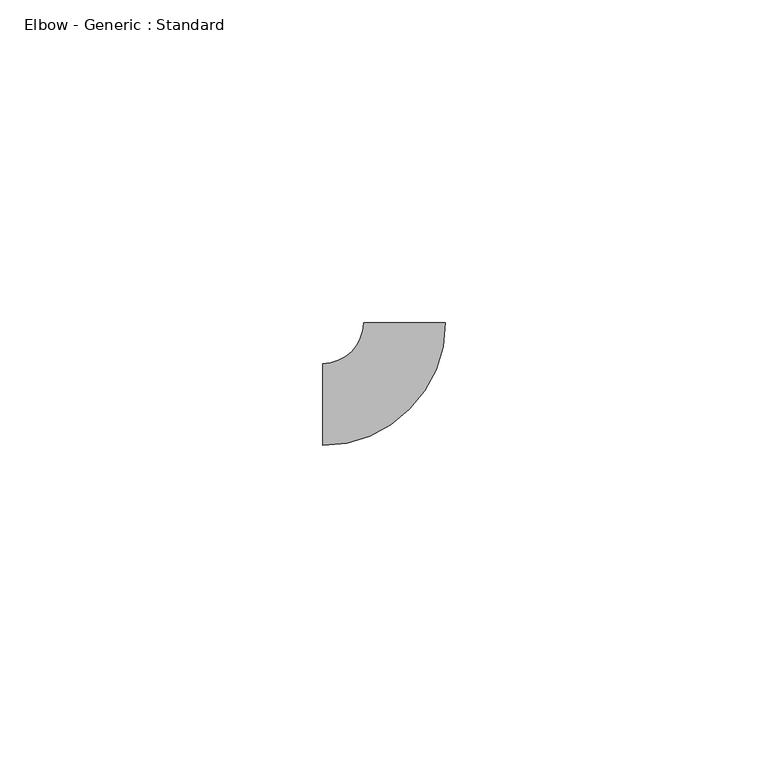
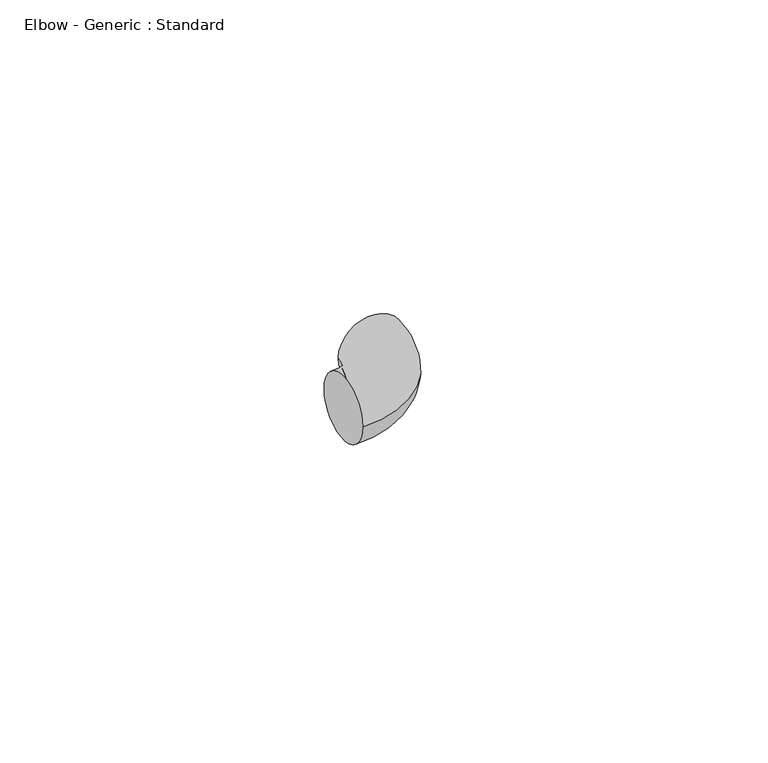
"""IFC4 building model written with IfcOpenShell, lengths in millimetres: pipe fitting geometry, Elbow - Generic : Standard."""

from ifc_helpers import new_model, si_unit, point, frame, origin, place, context, project, spatial, circle_curve, ellipse_curve, trimmed, source, transform, mapped, element, save
from ifc_brep_helpers import plane_surface, revolved_surface, advanced_brep


def elbow_generic_standard_6ceb1649(model_context):
    return source(origin(), model_context, "Body", "AdvancedBrep", [
        advanced_brep(
        [(-12.7, -6.35, 0.0), (-12.7, 6.35, 0.0), (6.35, 12.7, 0.0), (-6.35, 12.7, 0.0)],
        [
            (0, 1, circle_curve(frame((-12.7, 0.0, 0.0), z_axis=(-1.0, 0.0, 0.0), x_axis=(0.0, 1.0, 0.0)), 6.35)),
            (1, 0, circle_curve(frame((-12.7, 0.0, 0.0), z_axis=(-1.0, 0.0, 0.0), x_axis=(0.0, 1.0, 0.0)), 6.35)),
            (2, 3, circle_curve(frame((0.0, 12.7, 0.0), z_axis=(0.0, 1.0, 0.0), x_axis=(-1.0, 0.0, 0.0)), 6.35)),
            (3, 2, circle_curve(frame((0.0, 12.7, 0.0), z_axis=(0.0, 1.0, 0.0), x_axis=(-1.0, 0.0, 0.0)), 6.35)),
            (3, 1, circle_curve(frame((-12.7, 12.7, 0.0), z_axis=(0.0, 0.0, -1.0), x_axis=(0.0, -1.0, 0.0)), 6.35)),
            (0, 2, circle_curve(frame((-12.7, 12.7, 0.0), z_axis=(0.0, 0.0, 1.0), x_axis=(0.0, -1.0, 0.0)), 19.05)),
        ],
        [
            plane_surface(frame((-12.7, 0.0, 0.0), z_axis=(-1.0, 0.0, 0.0), x_axis=(0.0, 0.0, 1.0))),
            plane_surface(frame((0.0, 12.7, 0.0), z_axis=(0.0, 1.0, 0.0), x_axis=(0.0, 0.0, 1.0))),
            revolved_surface(trimmed(ellipse_curve(frame((-12.7, 0.0, 0.0), z_axis=(-1.0, 0.0, 0.0), x_axis=(0.0, 1.0, 0.0)), 6.35, 6.35), [point((-12.7, -6.35, 0.0))], [point((-12.7, 6.35, 0.0))], True, "CARTESIAN"), (-12.7, 12.7, 0.0), (0.0, 0.0, 1.0)),
            revolved_surface(trimmed(ellipse_curve(frame((-12.7, 0.0, 0.0), z_axis=(-1.0, 0.0, 0.0), x_axis=(0.0, 1.0, 0.0)), 6.35, 6.35), [point((-12.7, 6.35, 0.0))], [point((-12.7, -6.35, 0.0))], True, "CARTESIAN"), (-12.7, 12.7, 0.0), (0.0, 0.0, 1.0)),
        ],
        [
            (0, [[1, 2]]),
            (1, [[3, 4]]),
            (2, [[5, -1, 6, -4]]),
            (3, [[-6, -2, -5, -3]]),
        ],
    ),
    ])


if __name__ == "__main__":
    model = new_model("IFC4")
    model_context = context("Model", 3, world=origin())
    ifc_project = project(units=[si_unit("LENGTHUNIT", "METRE", prefix="MILLI")], contexts=[model_context])
    site = spatial("IfcSite", under=ifc_project)
    building = spatial("IfcBuilding", under=site)
    placement = place(None, origin())
    elbow_generic_standard_shape = elbow_generic_standard_6ceb1649(model_context)
    element("IfcPipeFitting", 1, ObjectType="Elbow - Generic : Standard", at=placement, inside=building, context=model_context, shape_type="MappedRepresentation", body=[
        mapped(elbow_generic_standard_shape, transform((0.0, 0.0, 0.0), x_axis=(1.0, 0.0, 0.0), y_axis=(0.0, 1.0, 0.0), z_axis=(0.0, 0.0, 1.0))),
    ])
    save(model, "model.ifc")
